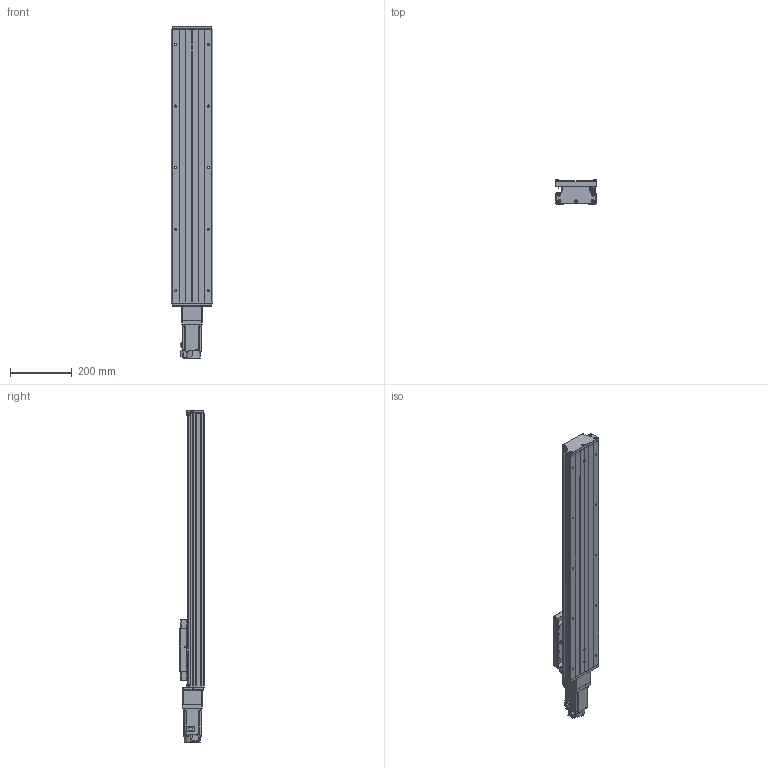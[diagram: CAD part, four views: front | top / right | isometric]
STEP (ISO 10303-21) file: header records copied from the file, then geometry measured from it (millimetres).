
FILE_DESCRIPTION (( 'STEP AP203' ), '1' );
FILE_NAME ('GTH14-650-BC-M40-C4.step', '2023-06-30T08:34:58', ( '微软用户' ), ( '微软中国' ), 'SwSTEP 2.0', 'SolidWorks 2020', '' );
FILE_SCHEMA (( 'CONFIG_CONTROL_DESIGN' ));
Length unit declared in the file: millimetre
Products named in the file (20): GBT 70.1-M3℅5; HG-KN43J-S100; GB1155-6X6; GBT77-2000 M3×3; GBT 70.3-M3℅8; GBT70.1 M5℅16; GTH14-031; GTH14-650-BC-M40-C4; GBT 70.2-M3¡Á5_M3¡Á6; す晦芛蹟隊 M3℅5; GTH14-001_650; CTHA60-017; CTHA86-006-1_M40; GTH14-002_GTH14-002; EE_SX911P_R; CTHA86-013; GTH14-004; CTHA60-016; CTHA86-027-1; GTH14-005
Assembly tree (57 placements, depth 2):
  GTH14-650-BC-M40-C4
    GTH14-001_650
    GTH14-002_GTH14-002
    GTH14-004
    GTH14-005
    GB1155-6X6  x2
    GBT70.1 M5℅16  x10
    GBT 70.2-M3¡Á5_M3¡Á6  x8
    CTHA60-017  x3
    EE_SX911P_R  x3
    CTHA60-016  x2
    GBT 70.1-M3℅5  x6
    GBT77-2000 M3×3  x6
    GTH14-031
    す晦芛蹟隊 M3℅5  x6
    CTHA86-006-1_M40
    CTHA86-013
    CTHA86-027-1
    HG-KN43J-S100
    GBT 70.3-M3℅8  x2
Bounding box: 135 x 78 x 1078.7 mm (x, y, z)
Volume: 5371016 mm3; surface area: 853385.3 mm2
Topology: 60 solids, 60 shells, 2414 faces, 5757 edges, 3554 vertices
Faces by surface type: plane 1302, cylinder 648, cone 304, torus 120, sphere 20, bspline 20
Entity records: 44420 total; most frequent: CARTESIAN_POINT 9897, DIRECTION 6516, ORIENTED_EDGE 6398, EDGE_CURVE 3199, AXIS2_PLACEMENT_3D 2217, LINE 2082, VECTOR 2082, VERTEX_POINT 2022
